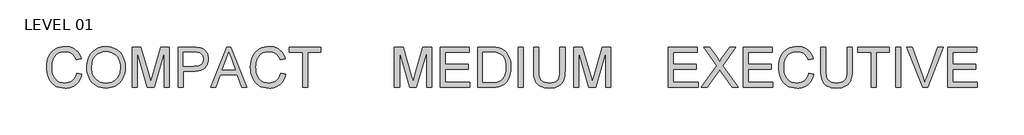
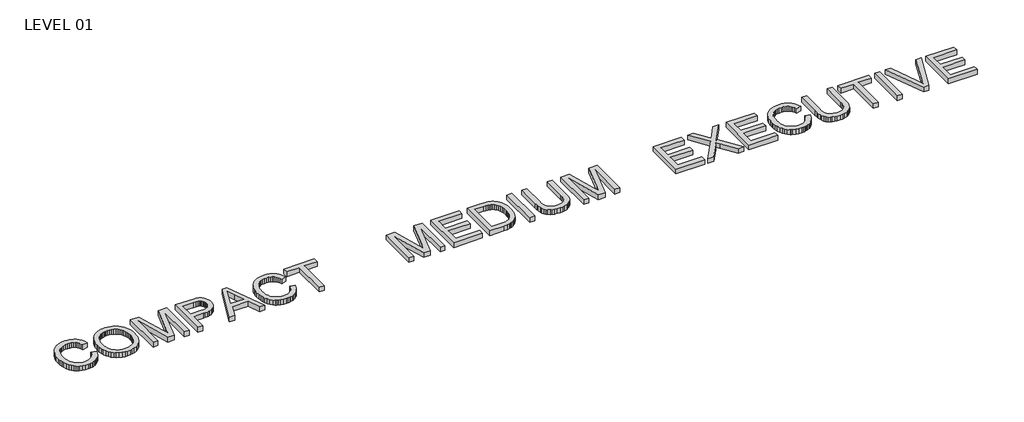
# One storey, part 2 of 2: 3 proxies.
"""IFC4 building model written with IfcOpenShell, lengths in millimetres."""

from ifc_helpers import new_model, si_unit, origin, origin_with_axes, place, context, project, spatial, polyline, outline, extrude, element, save

model = new_model("IFC4")

# Units and contexts
model_context = context("Model", 3, world=origin())
ifc_project = project(units=[si_unit("LENGTHUNIT", "METRE", prefix="MILLI")], contexts=[model_context])

# Site, building, storey
site = spatial("IfcSite", under=ifc_project)
building = spatial("IfcBuilding", under=site)
storey = spatial("IfcBuildingStorey", under=building, Name="LEVEL 01", Elevation=0.0)

# Proxies
placement = place(None, origin())
element("IfcBuildingElementProxy", 1, Name="48\" Arial", ObjectType="48\" Arial", at=placement, inside=storey, context=model_context, shape_type="SweptSolid", body=[
    extrude(outline(polyline([(-17936.6899945, -40628.7444781), (-17786.6346099, -40667.4306319), (-17800.2489488, -40715.5616475), (-17816.3269657, -40760.7481559), (-17834.8686604, -40802.9901572), (-17855.874033, -40842.2876511), (-17879.3430835, -40878.6406379), (-17905.2758118, -40912.0491175), (-17933.6722181, -40942.5130898), (-17964.5323022, -40970.032555), (-17997.5217734, -40994.4518158), (-18032.3063407, -41015.6151752), (-18068.8860041, -41033.5226331), (-18107.2607637, -41048.1741896), (-18147.4306195, -41059.5698447), (-18189.3955714, -41067.7095983), (-18233.1556195, -41072.5934504), (-18278.7107637, -41074.2214011), (-18370.2148743, -41069.2940454), (-18452.7618214, -41054.5119781), (-18526.3516051, -41029.8751992), (-18559.7875606, -41013.861293), (-18590.9842253, -40995.3837088), (-18647.5480714, -40951.5503915), (-18696.931533, -40898.8881319), (-18739.1346099, -40837.39693), (-18774.1573022, -40767.0767858), (-18801.6607397, -40690.9683723), (-18821.3060522, -40612.1123627), (-18833.0932397, -40530.5087569), (-18837.0223022, -40446.157555), (-18832.5803551, -40355.6517377), (-18819.2545137, -40271.1173627), (-18797.0447782, -40192.55443), (-18765.9511484, -40119.9629396), (-18726.669682, -40054.5426752), (-18679.8964368, -39997.4934204), (-18625.6314128, -39948.8151752), (-18563.8746099, -39908.5079396), (-18496.7233599, -39876.9014252), (-18426.2749945, -39854.3253434), (-18352.5295137, -39840.7796944), (-18275.4869176, -39836.2644781), (-18189.6611724, -39842.1076992), (-18149.4203371, -39849.4117257), (-18110.9608599, -39859.6373627), (-18074.2827409, -39872.7846103), (-18039.3859801, -39888.8534684), (-18006.2705774, -39907.8439372), (-17974.936533, -39929.7560165), (-17945.6494476, -39954.3195261), (-17918.6749224, -39981.2642858), (-17894.0129573, -40010.5902954), (-17871.6635522, -40042.297555), (-17833.9024224, -40112.8558242), (-17805.391533, -40192.9390934), (-17955.4469176, -40228.6944781), (-17979.0762445, -40169.6852713), (-18007.4680714, -40119.2668819), (-18040.6223984, -40077.4393098), (-18078.5392253, -40044.202555), (-18121.4383599, -40018.8788771), (-18169.5396099, -40000.7905358), (-18222.8429753, -39989.9375309), (-18281.348456, -39986.3198627), (-18348.6645618, -39990.3313531), (-18410.229033, -40002.3658242), (-18466.0418695, -40022.4232761), (-18516.1030714, -40050.5037088), (-18559.7806916, -40085.3432281), (-18596.442783, -40125.6779396), (-18626.0893455, -40171.5078434), (-18648.7203791, -40222.8329396), (-18665.4532397, -40277.32693), (-18677.405283, -40332.6635165), (-18684.5765089, -40388.8426992), (-18686.9669176, -40445.8644781), (-18684.1368935, -40517.5217858), (-18675.6468214, -40584.4898627), (-18661.4967012, -40646.7687088), (-18641.686533, -40704.3583242), (-18615.8957637, -40756.1138771), (-18583.8038407, -40800.8905358), (-18545.4107637, -40838.6883002), (-18500.716533, -40869.5071704), (-18451.8917493, -40893.4204156), (-18401.1070137, -40910.501305), (-18348.3623262, -40920.7498386), (-18293.6576868, -40924.1660165), (-18228.4205955, -40919.5134204), (-18168.4039368, -40905.5556319), (-18113.6077109, -40882.2926511), (-18064.0319176, -40849.7244781), (-18020.8488647, -40807.9976511), (-17985.2308599, -40757.2587088), (-17957.1779032, -40697.5076511), (-17936.6899945, -40628.7444781)])), origin_with_axes(), (0.0, 0.0, 1.0), 152.4),
    extrude(outline(polyline([(-17636.5792253, -40471.0690934), (-17634.0789128, -40398.6470382), (-17626.5779753, -40330.2639492), (-17614.0764128, -40265.9198266), (-17596.5742253, -40205.6146704), (-17574.0714128, -40149.3484805), (-17546.5679753, -40097.1212569), (-17514.0639128, -40048.9329997), (-17476.5592253, -40004.7837088), (-17435.1025786, -39965.2870141), (-17390.7426387, -39931.0565454), (-17343.4794056, -39902.0923026), (-17293.3128791, -39878.3942858), (-17240.2430594, -39859.9624949), (-17184.2699464, -39846.79693), (-17125.3935402, -39838.897591), (-17063.6138407, -39836.2644781), (-16982.852831, -39841.2101511), (-16906.1582637, -39856.0471704), (-16833.5301387, -39880.7755358), (-16764.968456, -39915.3952473), (-16702.396533, -39958.8622184), (-16647.7376868, -40010.1323627), (-16600.9919176, -40069.20568), (-16562.1592253, -40136.0821704), (-16531.6425907, -40209.2414973), (-16509.8449945, -40287.1633242), (-16496.7664368, -40369.8476511), (-16492.4069176, -40457.2944781), (-16496.9954032, -40545.8952954), (-16510.7608599, -40629.6969781), (-16533.7032878, -40708.6995261), (-16565.8226868, -40782.9029396), (-16606.3588887, -40850.3472665), (-16654.5517253, -40909.072555), (-16710.4011964, -40959.078805), (-16773.9073022, -41000.3660165), (-16842.5697301, -41032.6777473), (-16913.8881676, -41055.757555), (-16987.8626147, -41069.6054396), (-17064.4930714, -41074.2214011), (-17146.6645137, -41069.1200309), (-17224.366533, -41053.8159204), (-17297.5991291, -41028.3090694), (-17366.3623022, -40992.5994781), (-17428.860956, -40948.0701031), (-17483.2999945, -40896.1039011), (-17529.6794176, -40836.7008723), (-17567.9992253, -40769.8610165), (-17598.0029753, -40698.2678194), (-17619.4342253, -40624.6047665), (-17632.2929753, -40548.8718579), (-17636.5792253, -40471.0690934)]), holes=[polyline([(-17486.5238407, -40472.5344781), (-17484.6486063, -40523.6718218), (-17479.0229032, -40572.0157761), (-17469.6467313, -40617.566341), (-17456.5200907, -40660.3235165), (-17439.6429813, -40700.2873026), (-17419.0154032, -40737.4576992), (-17394.6373563, -40771.8347064), (-17366.5088407, -40803.4183242), (-17335.550301, -40831.7185646), (-17302.682182, -40856.2454396), (-17267.9044837, -40876.9989492), (-17231.217206, -40893.9790934), (-17192.6203491, -40907.1858723), (-17152.1139128, -40916.6192858), (-17109.6978972, -40922.2793338), (-17065.3723022, -40924.1660165), (-17020.2361664, -40922.2610165), (-16977.1469897, -40916.5460165), (-16936.1047722, -40907.0210165), (-16897.1095137, -40893.6860165), (-16860.1612145, -40876.5410165), (-16825.2598743, -40855.5860165), (-16792.4054933, -40830.8210165), (-16761.5980714, -40802.2460165), (-16733.6756255, -40770.1678314), (-16709.4761724, -40734.8932761), (-16688.9997121, -40696.4223507), (-16672.2462445, -40654.755055), (-16659.2157698, -40609.8913891), (-16649.9082878, -40561.8313531), (-16644.3237986, -40510.5749468), (-16642.4623022, -40456.1221704), (-16645.6495137, -40387.4505838), (-16655.2111484, -40323.285055), (-16671.147206, -40263.6255838), (-16693.4576868, -40208.4721704), (-16721.895307, -40158.5483483), (-16756.212783, -40114.5776511), (-16796.4101147, -40076.560079), (-16842.4873022, -40044.4956319), (-16893.0155955, -40019.0437329), (-16946.5662445, -40000.863805), (-17003.1392493, -39989.9558483), (-17062.7346099, -39986.3198627), (-17105.3544056, -39988.0714552), (-17146.4630234, -39993.3262329), (-17186.0604633, -40002.0841956), (-17224.1467253, -40014.3453434), (-17260.7218094, -40030.1096764), (-17295.7857157, -40049.3771944), (-17329.338444, -40072.1478975), (-17361.3799945, -40098.4217858), (-17390.7105835, -40128.7895922), (-17416.1304272, -40163.8420502), (-17437.6395258, -40203.5791596), (-17455.2378791, -40248.0009204), (-17468.9254873, -40297.1073326), (-17478.7023503, -40350.8983963), (-17484.5684681, -40409.3741115), (-17486.5238407, -40472.5344781)])]), origin_with_axes(), (0.0, 0.0, 1.0), 152.4),
    extrude(outline(polyline([(-16286.0807637, -41055.4644781), (-16286.0807637, -39855.0214011), (-16027.8799945, -39855.0214011), (-15782.281533, -40701.1344781), (-15732.751533, -40877.8598627), (-15679.118456, -40686.4806319), (-15437.6230714, -39855.0214011), (-15179.4223022, -39855.0214011), (-15179.4223022, -41055.4644781), (-15329.4776868, -41055.4644781), (-15329.4776868, -40005.0767858), (-15631.0538407, -41055.4644781), (-15834.4492253, -41055.4644781), (-16136.0253791, -40005.0767858), (-16136.0253791, -41055.4644781), (-16286.0807637, -41055.4644781)])), origin_with_axes(), (0.0, 0.0, 1.0), 152.4),
    extrude(outline(polyline([(-14916.8253791, -41055.4644781), (-14916.8253791, -39855.0214011), (-14471.9346099, -39855.0214011), (-14368.3319176, -39857.8789011), (-14292.571533, -39866.4514011), (-14250.8172301, -39875.4543579), (-14212.5981676, -39887.8093819), (-14177.9143455, -39903.5164733), (-14146.7657637, -39922.5756319), (-14118.8227109, -39945.38068), (-14093.7554753, -39972.3254396), (-14071.564057, -40003.4099108), (-14052.248456, -40038.6340934), (-14036.6054753, -40076.8348386), (-14025.4319176, -40116.8489973), (-14018.727783, -40158.6765694), (-14016.4930714, -40202.317555), (-14022.5286243, -40276.0080838), (-14030.0730654, -40310.6415334), (-14040.635283, -40343.8004396), (-14054.215277, -40375.4848026), (-14070.8130474, -40405.6946223), (-14090.4285943, -40434.4298987), (-14113.0619176, -40461.6906319), (-14139.6334621, -40486.5563771), (-14171.0636724, -40508.1066896), (-14207.3525486, -40526.3415694), (-14248.5000907, -40541.2610165), (-14294.5062986, -40552.8650309), (-14345.3711724, -40561.1536127), (-14401.0947121, -40566.1267617), (-14461.6769176, -40567.7844781), (-14766.7699945, -40567.7844781), (-14766.7699945, -41055.4644781), (-14916.8253791, -41055.4644781)]), holes=[polyline([(-14766.7699945, -40417.7290934), (-14452.8846099, -40417.7290934), (-14380.7144176, -40414.2854396), (-14319.8276868, -40403.9544781), (-14270.2244176, -40386.7362088), (-14231.9046099, -40362.6306319), (-14203.3112926, -40332.2788531), (-14182.8874945, -40296.3219781), (-14170.6332157, -40254.7600069), (-14166.548456, -40207.5929396), (-14168.957182, -40172.5702473), (-14176.1833599, -40140.1852473), (-14188.2269897, -40110.4379396), (-14205.0880714, -40083.3283242), (-14225.869057, -40059.7356319), (-14249.6723984, -40040.5390934), (-14276.4980955, -40025.7387088), (-14306.3461484, -40015.3344781), (-14364.2288407, -40007.6412088), (-14456.401533, -40005.0767858), (-14766.7699945, -40005.0767858), (-14766.7699945, -40417.7290934)])]), origin_with_axes(), (0.0, 0.0, 1.0), 152.4),
    extrude(outline(polyline([(-13949.9646099, -41055.4644781), (-13470.7838407, -39855.0214011), (-13343.0023022, -39855.0214011), (-12863.821533, -41055.4644781), (-13022.3761484, -41055.4644781), (-13159.8292253, -40680.3260165), (-13654.2499945, -40680.3260165), (-13791.4099945, -41055.4644781), (-13949.9646099, -41055.4644781)]), holes=[polyline([(-13599.151533, -40530.2706319), (-13214.6346099, -40530.2706319), (-13322.7799945, -40235.1421704), (-13406.8930714, -40005.0767858), (-13481.6276868, -40209.3514011), (-13599.151533, -40530.2706319)])]), origin_with_axes(), (0.0, 0.0, 1.0), 152.4),
    extrude(outline(polyline([(-11859.4469176, -40628.7444781), (-11709.391533, -40667.4306319), (-11723.0058719, -40715.5616475), (-11739.0838887, -40760.7481559), (-11757.6255835, -40802.9901572), (-11778.630956, -40842.2876511), (-11802.1000065, -40878.6406379), (-11828.0327349, -40912.0491175), (-11856.4291411, -40942.5130898), (-11887.2892253, -40970.032555), (-11920.2786964, -40994.4518158), (-11955.0632637, -41015.6151752), (-11991.6429272, -41033.5226331), (-12030.0176868, -41048.1741896), (-12070.1875426, -41059.5698447), (-12112.1524945, -41067.7095983), (-12155.9125426, -41072.5934504), (-12201.4676868, -41074.2214011), (-12292.9717974, -41069.2940454), (-12375.5187445, -41054.5119781), (-12449.1085282, -41029.8751992), (-12482.5444837, -41013.861293), (-12513.7411484, -40995.3837088), (-12570.3049945, -40951.5503915), (-12619.688456, -40898.8881319), (-12661.891533, -40837.39693), (-12696.9142253, -40767.0767858), (-12724.4176628, -40690.9683723), (-12744.0629753, -40612.1123627), (-12755.8501628, -40530.5087569), (-12759.7792253, -40446.157555), (-12755.3372782, -40355.6517377), (-12742.0114368, -40271.1173627), (-12719.8017012, -40192.55443), (-12688.7080714, -40119.9629396), (-12649.4266051, -40054.5426752), (-12602.6533599, -39997.4934204), (-12548.3883359, -39948.8151752), (-12486.631533, -39908.5079396), (-12419.480283, -39876.9014252), (-12349.0319176, -39854.3253434), (-12275.2864368, -39840.7796944), (-12198.2438407, -39836.2644781), (-12112.4180955, -39842.1076992), (-12072.1772601, -39849.4117257), (-12033.717783, -39859.6373627), (-11997.039664, -39872.7846103), (-11962.1429032, -39888.8534684), (-11929.0275005, -39907.8439372), (-11897.693456, -39929.7560165), (-11868.4063707, -39954.3195261), (-11841.4318455, -39981.2642858), (-11816.7698803, -40010.5902954), (-11794.4204753, -40042.297555), (-11756.6593455, -40112.8558242), (-11728.148456, -40192.9390934), (-11878.2038407, -40228.6944781), (-11901.8331676, -40169.6852713), (-11930.2249945, -40119.2668819), (-11963.3793214, -40077.4393098), (-12001.2961484, -40044.202555), (-12044.195283, -40018.8788771), (-12092.296533, -40000.7905358), (-12145.5998984, -39989.9375309), (-12204.1053791, -39986.3198627), (-12271.4214849, -39990.3313531), (-12332.985956, -40002.3658242), (-12388.7987926, -40022.4232761), (-12438.8599945, -40050.5037088), (-12482.5376147, -40085.3432281), (-12519.199706, -40125.6779396), (-12548.8462685, -40171.5078434), (-12571.4773022, -40222.8329396), (-12588.2101628, -40277.32693), (-12600.162206, -40332.6635165), (-12607.333432, -40388.8426992), (-12609.7238407, -40445.8644781), (-12606.8938166, -40517.5217858), (-12598.4037445, -40584.4898627), (-12584.2536243, -40646.7687088), (-12564.443456, -40704.3583242), (-12538.6526868, -40756.1138771), (-12506.5607637, -40800.8905358), (-12468.1676868, -40838.6883002), (-12423.473456, -40869.5071704), (-12374.6486724, -40893.4204156), (-12323.8639368, -40910.501305), (-12271.1192493, -40920.7498386), (-12216.4146099, -40924.1660165), (-12151.1775185, -40919.5134204), (-12091.1608599, -40905.5556319), (-12036.3646339, -40882.2926511), (-11986.7888407, -40849.7244781), (-11943.6057878, -40807.9976511), (-11907.987783, -40757.2587088), (-11879.9348262, -40697.5076511), (-11859.4469176, -40628.7444781)])), origin_with_axes(), (0.0, 0.0, 1.0), 152.4),
    extrude(outline(polyline([(-11202.9546099, -41055.4644781), (-11202.9546099, -40005.0767858), (-11596.8499945, -40005.0767858), (-11596.8499945, -39855.0214011), (-10659.0038407, -39855.0214011), (-10659.0038407, -40005.0767858), (-11052.8992253, -40005.0767858), (-11052.8992253, -41055.4644781), (-11202.9546099, -41055.4644781)])), origin_with_axes(), (0.0, 0.0, 1.0), 152.4),
])
element("IfcBuildingElementProxy", 2, Name="48\" Arial", ObjectType="48\" Arial", at=placement, inside=storey, context=model_context, shape_type="SweptSolid", body=[
    extrude(outline(polyline([(-8467.9607637, -41055.4644781), (-8467.9607637, -39855.0214011), (-8209.7599945, -39855.0214011), (-7964.161533, -40701.1344781), (-7914.631533, -40877.8598627), (-7860.998456, -40686.4806319), (-7619.5030714, -39855.0214011), (-7361.3023022, -39855.0214011), (-7361.3023022, -41055.4644781), (-7511.3576868, -41055.4644781), (-7511.3576868, -40005.0767858), (-7812.9338407, -41055.4644781), (-8016.3292253, -41055.4644781), (-8317.9053791, -40005.0767858), (-8317.9053791, -41055.4644781), (-8467.9607637, -41055.4644781)])), origin_with_axes(), (0.0, 0.0, 1.0), 152.4),
    extrude(outline(polyline([(-7098.7053791, -41055.4644781), (-7098.7053791, -39855.0214011), (-6235.8869176, -39855.0214011), (-6235.8869176, -40005.0767858), (-6948.6499945, -40005.0767858), (-6948.6499945, -40361.4583242), (-6273.4007637, -40361.4583242), (-6273.4007637, -40511.5137088), (-6948.6499945, -40511.5137088), (-6948.6499945, -40905.4090934), (-6217.1299945, -40905.4090934), (-6217.1299945, -41055.4644781), (-7098.7053791, -41055.4644781)])), origin_with_axes(), (0.0, 0.0, 1.0), 152.4),
    extrude(outline(polyline([(-5992.0469176, -41055.4644781), (-5992.0469176, -39855.0214011), (-5577.9292253, -39855.0214011), (-5454.1774945, -39859.3442858), (-5404.7757157, -39864.7478915), (-5363.6899945, -39872.3129396), (-5313.9768214, -39886.5821223), (-5268.0003791, -39905.6504396), (-5225.7606676, -39929.5178915), (-5187.2576868, -39958.1844781), (-5142.7649464, -40001.1202473), (-5104.2436484, -40049.6244781), (-5071.6937926, -40103.6971704), (-5045.1153791, -40163.3383242), (-5024.4717734, -40227.9984204), (-5009.7263407, -40297.1279396), (-5000.879081, -40370.7268819), (-4997.9299945, -40448.7952473), (-4999.926581, -40515.1496944), (-5005.9163407, -40577.6391896), (-5015.8992734, -40636.2637329), (-5029.8753791, -40691.0233242), (-5046.9837445, -40741.5699348), (-5066.363456, -40787.5555358), (-5088.0145137, -40828.9801271), (-5111.9369176, -40865.8437088), (-5137.5811484, -40898.5858963), (-5164.3976868, -40927.646305), (-5192.386533, -40953.0249348), (-5221.5476868, -40974.7217858), (-5252.8244897, -40993.3779636), (-5287.160283, -41009.6345742), (-5324.5550666, -41023.4916175), (-5365.0088407, -41034.9490934), (-5455.2398984, -41050.3356319), (-5557.9999945, -41055.4644781), (-5992.0469176, -41055.4644781)]), holes=[polyline([(-5841.991533, -40905.4090934), (-5576.4638407, -40905.4090934), (-5466.6332637, -40899.9871704), (-5421.6642734, -40893.2097665), (-5383.3261484, -40883.7214011), (-5350.0985522, -40871.7601992), (-5320.4611484, -40857.5642858), (-5294.4139368, -40841.1336608), (-5271.9569176, -40822.4683242), (-5244.270307, -40792.3821463), (-5219.8258599, -40757.5151511), (-5198.6235762, -40717.8673386), (-5180.663456, -40673.4387088), (-5166.3667974, -40624.1376752), (-5156.1548984, -40569.8726511), (-5150.0277589, -40510.6436367), (-5147.9853791, -40446.4506319), (-5151.9877109, -40359.3335165), (-5163.994706, -40282.9137088), (-5184.0063647, -40217.1912088), (-5212.0226868, -40162.1660165), (-5245.7723262, -40116.592555), (-5282.9839368, -40079.2252473), (-5323.6575185, -40050.0640934), (-5367.7930714, -40029.1090934), (-5405.929706, -40018.5949588), (-5454.1042253, -40011.0848627), (-5512.3166291, -40006.578805), (-5580.5669176, -40005.0767858), (-5841.991533, -40005.0767858), (-5841.991533, -40905.4090934)])]), origin_with_axes(), (0.0, 0.0, 1.0), 152.4),
    extrude(outline(polyline([(-4772.8469176, -41055.4644781), (-4772.8469176, -39855.0214011), (-4622.791533, -39855.0214011), (-4622.791533, -41055.4644781), (-4772.8469176, -41055.4644781)])), origin_with_axes(), (0.0, 0.0, 1.0), 152.4),
    extrude(outline(polyline([(-3534.8899945, -39855.0214011), (-3384.8346099, -39855.0214011), (-3384.8346099, -40547.5621704), (-3387.3807157, -40633.3146463), (-3395.019033, -40709.7436127), (-3407.7495618, -40776.8490694), (-3425.5723022, -40834.6310165), (-3450.025908, -40885.2783723), (-3482.649033, -40930.980055), (-3523.4416772, -40971.7360646), (-3572.4038407, -41007.5464011), (-3629.5904753, -41036.7167136), (-3695.056533, -41057.5526511), (-3768.8020137, -41070.0542136), (-3850.8269176, -41074.2214011), (-3930.8277589, -41070.5945742), (-4003.190283, -41059.7140934), (-4067.9144897, -41041.5799588), (-4125.0003791, -41016.1921704), (-4174.4571099, -40983.9262329), (-4216.2938407, -40945.1576511), (-4250.5105714, -40899.8864252), (-4277.1073022, -40848.112555), (-4297.0456916, -40788.0592617), (-4311.2873984, -40717.9497665), (-4319.8324224, -40637.7840694), (-4322.6807637, -40547.5621704), (-4322.6807637, -39855.0214011), (-4172.6253791, -39855.0214011), (-4172.6253791, -40542.2867858), (-4170.775331, -40614.8324829), (-4165.2251868, -40677.138805), (-4155.9749464, -40729.2057521), (-4143.0246099, -40771.0333242), (-4125.5682157, -40805.6438771), (-4102.7998022, -40836.0597665), (-4074.7193695, -40862.2809925), (-4041.3269176, -40884.307555), (-4003.2635522, -40901.7456319), (-3961.1703791, -40914.2014011), (-3915.0473984, -40921.6748627), (-3864.8946099, -40924.1660165), (-3782.1919657, -40919.2386608), (-3712.2748022, -40904.4565934), (-3682.1107758, -40893.370043), (-3655.1431195, -40879.8198146), (-3631.3718335, -40863.8059084), (-3610.7969176, -40845.3283242), (-3593.0062325, -40823.347555), (-3577.5876387, -40796.8240934), (-3564.5411363, -40765.7579396), (-3553.8667253, -40730.1490934), (-3539.6341772, -40645.3033242), (-3534.8899945, -40542.2867858), (-3534.8899945, -39855.0214011)])), origin_with_axes(), (0.0, 0.0, 1.0), 152.4),
    extrude(outline(polyline([(-3122.2376868, -41055.4644781), (-3122.2376868, -39855.0214011), (-2864.0369176, -39855.0214011), (-2618.438456, -40701.1344781), (-2568.908456, -40877.8598627), (-2515.2753791, -40686.4806319), (-2273.7799945, -39855.0214011), (-2015.5792253, -39855.0214011), (-2015.5792253, -41055.4644781), (-2165.6346099, -41055.4644781), (-2165.6346099, -40005.0767858), (-2467.2107637, -41055.4644781), (-2670.6061484, -41055.4644781), (-2972.1823022, -40005.0767858), (-2972.1823022, -41055.4644781), (-3122.2376868, -41055.4644781)])), origin_with_axes(), (0.0, 0.0, 1.0), 152.4),
])
element("IfcBuildingElementProxy", 3, Name="48\" Arial", ObjectType="48\" Arial", at=placement, inside=storey, context=model_context, shape_type="SweptSolid", body=[
    extrude(outline(polyline([(-302.8376868, -41055.4644781), (-302.8376868, -39855.0214011), (559.9807747, -39855.0214011), (559.9807747, -40005.0767858), (-152.7823022, -40005.0767858), (-152.7823022, -40361.4583242), (522.4669286, -40361.4583242), (522.4669286, -40511.5137088), (-152.7823022, -40511.5137088), (-152.7823022, -40905.4090934), (578.7376978, -40905.4090934), (578.7376978, -41055.4644781), (-302.8376868, -41055.4644781)])), origin_with_axes(), (0.0, 0.0, 1.0), 152.4),
    extrude(outline(polyline([(672.5223132, -41055.4644781), (1135.2907747, -40401.3167858), (747.5500055, -39855.0214011), (927.4992363, -39855.0214011), (1145.841544, -40162.4590934), (1197.935967, -40240.3442858), (1219.4038516, -40282.327555), (1305.568467, -40160.407555), (1521.5661593, -39855.0214011), (1704.1530824, -39855.0214011), (1316.4123132, -40403.0752473), (1779.1807747, -41055.4644781), (1599.231544, -41055.4644781), (1290.9146209, -40620.5383242), (1226.7307747, -40530.2706319), (1156.0992363, -40629.3306319), (855.1092363, -41055.4644781), (672.5223132, -41055.4644781)])), origin_with_axes(), (0.0, 0.0, 1.0), 152.4),
    extrude(outline(polyline([(1929.2361593, -41055.4644781), (1929.2361593, -39855.0214011), (2792.0546209, -39855.0214011), (2792.0546209, -40005.0767858), (2079.291544, -40005.0767858), (2079.291544, -40361.4583242), (2754.5407747, -40361.4583242), (2754.5407747, -40511.5137088), (2079.291544, -40511.5137088), (2079.291544, -40905.4090934), (2810.811544, -40905.4090934), (2810.811544, -41055.4644781), (1929.2361593, -41055.4644781)])), origin_with_axes(), (0.0, 0.0, 1.0), 152.4),
    extrude(outline(polyline([(3879.9561593, -40628.7444781), (4030.011544, -40667.4306319), (4016.397205, -40715.5616475), (4000.3191882, -40760.7481559), (3981.7774935, -40802.9901572), (3960.7721209, -40842.2876511), (3937.3030704, -40878.6406379), (3911.370342, -40912.0491175), (3882.9739358, -40942.5130898), (3852.1138516, -40970.032555), (3819.1243805, -40994.4518158), (3784.3398132, -41015.6151752), (3747.7601497, -41033.5226331), (3709.3853901, -41048.1741896), (3669.2155343, -41059.5698447), (3627.2505824, -41067.7095983), (3583.4905343, -41072.5934504), (3537.9353901, -41074.2214011), (3446.4312795, -41069.2940454), (3363.8843324, -41054.5119781), (3290.2945488, -41029.8751992), (3256.8585932, -41013.861293), (3225.6619286, -40995.3837088), (3169.0980824, -40951.5503915), (3119.7146209, -40898.8881319), (3077.511544, -40837.39693), (3042.4888516, -40767.0767858), (3014.9854141, -40690.9683723), (2995.3401016, -40612.1123627), (2983.5529141, -40530.5087569), (2979.6238516, -40446.157555), (2984.0657988, -40355.6517377), (2997.3916401, -40271.1173627), (3019.6013757, -40192.55443), (3050.6950055, -40119.9629396), (3089.9764718, -40054.5426752), (3136.749717, -39997.4934204), (3191.0147411, -39948.8151752), (3252.771544, -39908.5079396), (3319.922794, -39876.9014252), (3390.3711593, -39854.3253434), (3464.1166401, -39840.7796944), (3541.1592363, -39836.2644781), (3626.9849815, -39842.1076992), (3667.2258168, -39849.4117257), (3705.685294, -39859.6373627), (3742.3634129, -39872.7846103), (3777.2601738, -39888.8534684), (3810.3755764, -39907.8439372), (3841.7096209, -39929.7560165), (3870.9967062, -39954.3195261), (3897.9712315, -39981.2642858), (3922.6331966, -40010.5902954), (3944.9826016, -40042.297555), (3982.7437315, -40112.8558242), (4011.2546209, -40192.9390934), (3861.1992363, -40228.6944781), (3837.5699093, -40169.6852713), (3809.1780824, -40119.2668819), (3776.0237555, -40077.4393098), (3738.1069286, -40044.202555), (3695.207794, -40018.8788771), (3647.106544, -40000.7905358), (3593.8031786, -39989.9375309), (3535.2976978, -39986.3198627), (3467.981592, -39990.3313531), (3406.4171209, -40002.3658242), (3350.6042843, -40022.4232761), (3300.5430824, -40050.5037088), (3256.8654622, -40085.3432281), (3220.2033709, -40125.6779396), (3190.5568084, -40171.5078434), (3167.9257747, -40222.8329396), (3151.1929141, -40277.32693), (3139.2408709, -40332.6635165), (3132.0696449, -40388.8426992), (3129.6792363, -40445.8644781), (3132.5092603, -40517.5217858), (3140.9993324, -40584.4898627), (3155.1494526, -40646.7687088), (3174.9596209, -40704.3583242), (3200.7503901, -40756.1138771), (3232.8423132, -40800.8905358), (3271.2353901, -40838.6883002), (3315.9296209, -40869.5071704), (3364.7544045, -40893.4204156), (3415.5391401, -40910.501305), (3468.2838276, -40920.7498386), (3522.988467, -40924.1660165), (3588.2255584, -40919.5134204), (3648.242217, -40905.5556319), (3703.038443, -40882.2926511), (3752.6142363, -40849.7244781), (3795.7972891, -40807.9976511), (3831.415294, -40757.2587088), (3859.4682507, -40697.5076511), (3879.9561593, -40628.7444781)])), origin_with_axes(), (0.0, 0.0, 1.0), 152.4),
    extrude(outline(polyline([(5024.128467, -39855.0214011), (5174.1838516, -39855.0214011), (5174.1838516, -40547.5621704), (5171.6377459, -40633.3146463), (5163.9994286, -40709.7436127), (5151.2688997, -40776.8490694), (5133.4461593, -40834.6310165), (5108.9925536, -40885.2783723), (5076.3694286, -40930.980055), (5035.5767843, -40971.7360646), (4986.6146209, -41007.5464011), (4929.4279863, -41036.7167136), (4863.9619286, -41057.5526511), (4790.2164478, -41070.0542136), (4708.191544, -41074.2214011), (4628.1907026, -41070.5945742), (4555.8281786, -41059.7140934), (4491.1039718, -41041.5799588), (4434.0180824, -41016.1921704), (4384.5613516, -40983.9262329), (4342.7246209, -40945.1576511), (4308.5078901, -40899.8864252), (4281.9111593, -40848.112555), (4261.9727699, -40788.0592617), (4247.7310632, -40717.9497665), (4239.1860391, -40637.7840694), (4236.3376978, -40547.5621704), (4236.3376978, -39855.0214011), (4386.3930824, -39855.0214011), (4386.3930824, -40542.2867858), (4388.2431305, -40614.8324829), (4393.7932747, -40677.138805), (4403.0435151, -40729.2057521), (4415.9938516, -40771.0333242), (4433.4502459, -40805.6438771), (4456.2186593, -40836.0597665), (4484.299092, -40862.2809925), (4517.691544, -40884.307555), (4555.7549093, -40901.7456319), (4597.8480824, -40914.2014011), (4643.9710632, -40921.6748627), (4694.1238516, -40924.1660165), (4776.8264959, -40919.2386608), (4846.7436593, -40904.4565934), (4876.9076858, -40893.370043), (4903.875342, -40879.8198146), (4927.6466281, -40863.8059084), (4948.221544, -40845.3283242), (4966.012229, -40823.347555), (4981.4308228, -40796.8240934), (4994.4773252, -40765.7579396), (5005.1517363, -40730.1490934), (5019.3842843, -40645.3033242), (5024.128467, -40542.2867858), (5024.128467, -39855.0214011)])), origin_with_axes(), (0.0, 0.0, 1.0), 152.4),
    extrude(outline(polyline([(5736.891544, -41055.4644781), (5736.891544, -40005.0767858), (5342.9961593, -40005.0767858), (5342.9961593, -39855.0214011), (6280.8423132, -39855.0214011), (6280.8423132, -40005.0767858), (5886.9469286, -40005.0767858), (5886.9469286, -41055.4644781), (5736.891544, -41055.4644781)])), origin_with_axes(), (0.0, 0.0, 1.0), 152.4),
    extrude(outline(polyline([(6468.411544, -41055.4644781), (6468.411544, -39855.0214011), (6618.4669286, -39855.0214011), (6618.4669286, -41055.4644781), (6468.411544, -41055.4644781)])), origin_with_axes(), (0.0, 0.0, 1.0), 152.4),
    extrude(outline(polyline([(7273.2007747, -41055.4644781), (6795.4853901, -39855.0214011), (6956.091544, -39855.0214011), (7275.838467, -40719.8914011), (7311.374044, -40820.6365934), (7340.608467, -40914.787555), (7370.3557747, -40817.2662088), (7404.4992363, -40719.8914011), (7725.1253901, -39855.0214011), (7885.731544, -39855.0214011), (7428.238467, -41055.4644781), (7273.2007747, -41055.4644781)])), origin_with_axes(), (0.0, 0.0, 1.0), 152.4),
    extrude(outline(polyline([(8025.2361593, -41055.4644781), (8025.2361593, -39855.0214011), (8888.0546209, -39855.0214011), (8888.0546209, -40005.0767858), (8175.291544, -40005.0767858), (8175.291544, -40361.4583242), (8850.5407747, -40361.4583242), (8850.5407747, -40511.5137088), (8175.291544, -40511.5137088), (8175.291544, -40905.4090934), (8906.811544, -40905.4090934), (8906.811544, -41055.4644781), (8025.2361593, -41055.4644781)])), origin_with_axes(), (0.0, 0.0, 1.0), 152.4),
])

save(model, "model.ifc")
